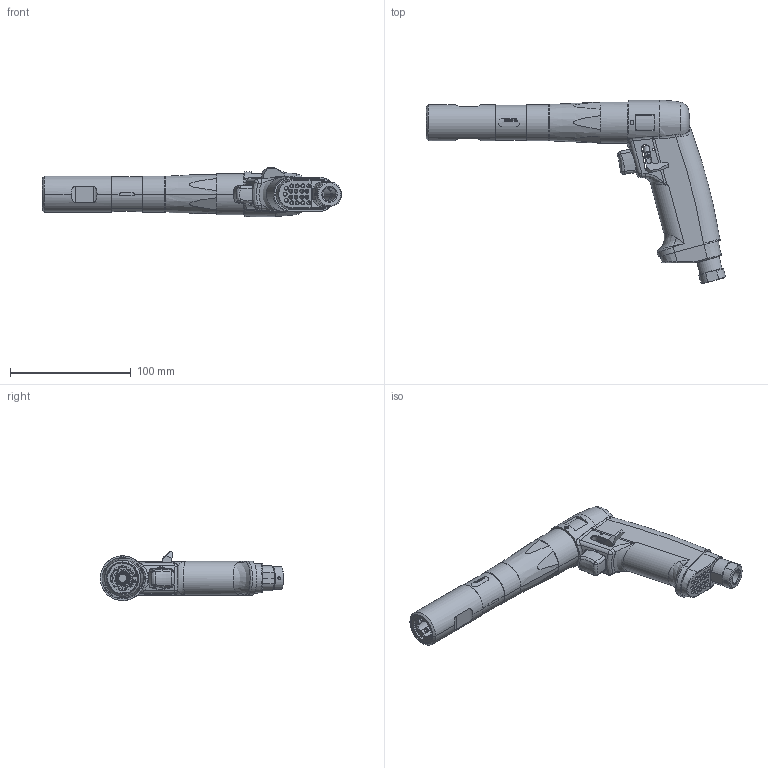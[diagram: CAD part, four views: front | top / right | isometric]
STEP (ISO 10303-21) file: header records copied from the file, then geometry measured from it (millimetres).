
FILE_DESCRIPTION((''),'2;1');
FILE_NAME('6151800070_ASM','2015-05-11T',('greextsd'),(''),'PRO/ENGINEER BY PARAMETRIC TECHNOLOGY CORPORATION, 2014200','PRO/ENGINEER BY PARAMETRIC TECHNOLOGY CORPORATION, 2014200','');
FILE_SCHEMA(('CONFIG_CONTROL_DESIGN'));
Length unit declared in the file: millimetre
Products named in the file (26): 458333_OLD; 2050462171_ASM; 307763; 6153071700; 6153988540_ASM; 2050472783; 462893-OLD; 458953; 2050462233; 458913_PLASTIC; 2050458913_ASM; 2050462181_ASM; 458983; 2050462761_ASM; 6155830920; 6152510090; 6153110590; 6152610870; 0335212000; 6153988530_ASM; 6155655220; 6152510080; 2050505423; 76713; 6153988520_ASM; 6151800070_ASM
Assembly tree (37 placements, depth 4):
  6151800070_ASM
    2050462171_ASM
      458333_OLD
    6153988540_ASM
      307763
      6153071700
    2050472783
    2050462181_ASM
      462893-OLD
      458953
      2050462233  x2
      2050458913_ASM
        458913_PLASTIC
    2050462761_ASM
      458983
    6153988530_ASM
      6155830920
      6152510090
      6153110590  x6
      6152610870
      0335212000
    6153988520_ASM
      6155655220
      6152510080
      6153110590  x6
      2050505423
      76713
Bounding box: 247.52 x 151.81 x 40.77 mm (x, y, z)
Volume: 165292.6 mm3; surface area: 147254.6 mm2
Topology: 30 solids, 43 shells, 1578 faces, 3817 edges, 2358 vertices
Faces by surface type: cylinder 572, plane 406, torus 202, bspline 186, cone 181, sphere 26, extrusion 3, revolution 2
Entity records: 55390 total; most frequent: CARTESIAN_POINT 24278, ORIENTED_EDGE 6439, DIRECTION 6376, EDGE_CURVE 3269, AXIS2_PLACEMENT_3D 2596, VERTEX_POINT 2055, EDGE_LOOP 1461, CIRCLE 1379
